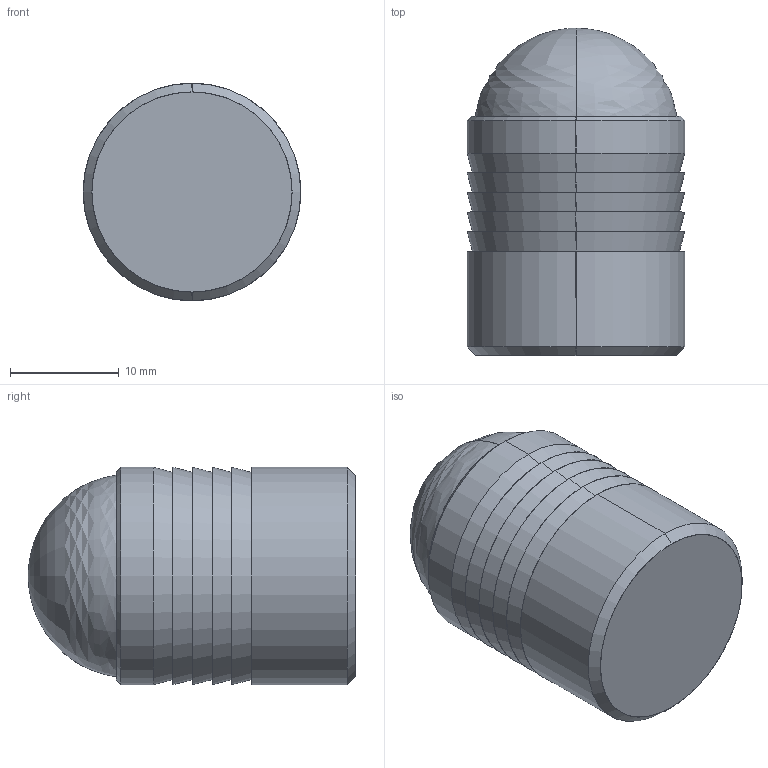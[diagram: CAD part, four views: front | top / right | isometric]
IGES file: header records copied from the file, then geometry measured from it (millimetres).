
Start section: SolidWorks IGES file using analytic representation for surfaces
Global section: file name: C:\Users\IanO\Desktop\P0190_v2\P0190_v2_20230321_IGES\P0190.200-ZP-BS.igs; native system: SolidWorks 2019; preprocessor: SolidWorks 2019; author: IanO; date: 231219.161214; units: millimetre
Bounding box: 20 x 30.1 x 20 mm (x, y, z)
Surface area: 3492.3 mm2 (no closed solid volume)
Topology: 0 solids, 0 shells, 29 faces, 504 edges, 502 vertices
Faces by surface type: revolution 22, bspline 7
